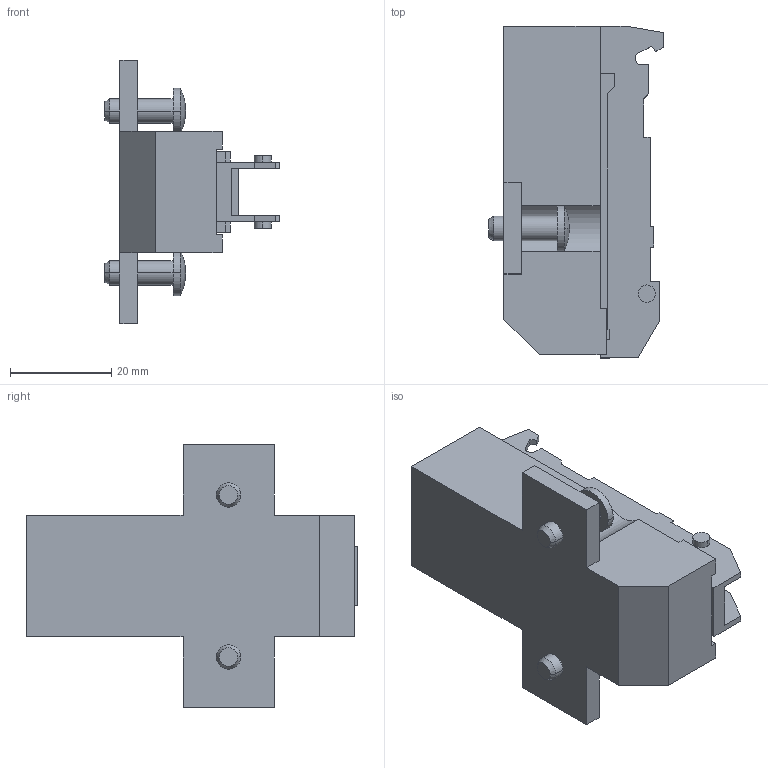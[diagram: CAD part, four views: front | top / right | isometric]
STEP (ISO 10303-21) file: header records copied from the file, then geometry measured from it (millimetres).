
FILE_DESCRIPTION (( 'STEP AP214' ), '1' );
FILE_NAME ('1D Kreuzmontageplatte_37_32_H21_Euro.STEP', '2011-08-18T14:07:24', ( '' ), ( '' ), 'SwSTEP 2.0', 'SolidWorks 2011', '' );
FILE_SCHEMA (( 'AUTOMOTIVE_DESIGN' ));
Length unit declared in the file: millimetre
Products named in the file (1): 1D Kreuzmontageplatte_37_32_H21_Euro
Bounding box: 34.5 x 65.55 x 52 mm (x, y, z)
Volume: 35064.7 mm3; surface area: 10810.2 mm2
Topology: 1 solids, 1 shells, 121 faces, 329 edges, 218 vertices
Faces by surface type: plane 93, cylinder 20, cone 4, sphere 4
Entity records: 3817 total; most frequent: CARTESIAN_POINT 669, ORIENTED_EDGE 658, DIRECTION 625, EDGE_CURVE 329, LINE 277, VECTOR 277, VERTEX_POINT 218, AXIS2_PLACEMENT_3D 174
